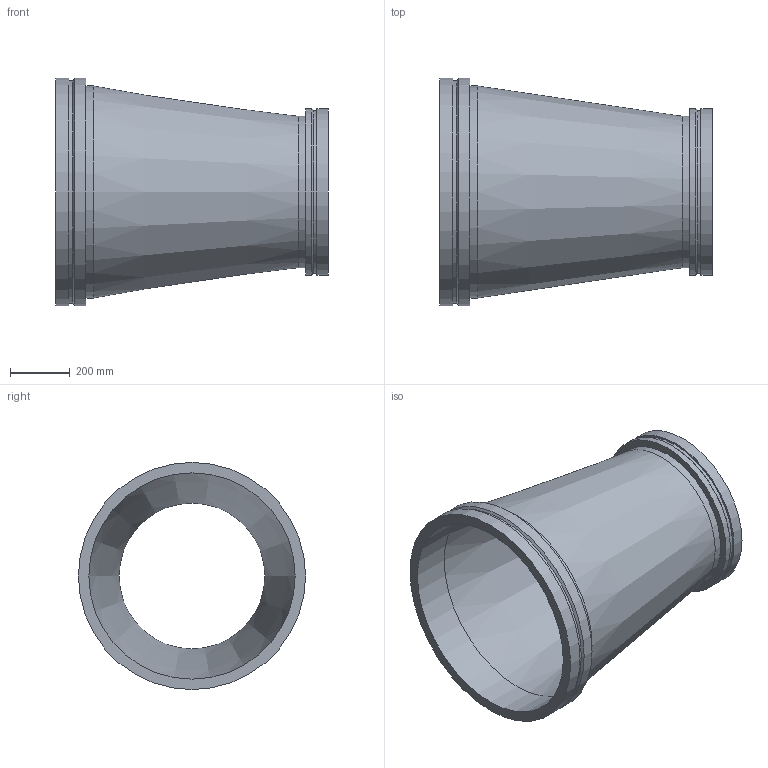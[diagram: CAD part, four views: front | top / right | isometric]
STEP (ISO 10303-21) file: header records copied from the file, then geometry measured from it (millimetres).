
FILE_DESCRIPTION(/* description */ ('VIC REDUCER CONCENTRIC No W50 VR','CAx-IF Rec.Pracs.---Representation and Presentation of Product Manufacturing Information (PMI)---4.0---2014-10-13'),/* implementation_level */ '2;1');
FILE_NAME(/* name */ 'C:\Users\kkamble\AppData\Roaming\Autodesk\ApplicationPlugins\Back Up\Victaulic_Vic-Ring_Reducer Concentric_No W50 VR (AGR)\Victaulic_Vic-Ring_Reducer Concentric_No W50 VR (AGR)_28.0x20.0 (700x500).stp',/* time_stamp */ '2020-09-10T11:46:11+05:00',/* author */ ('cps_temp'),/* organization */ ('Victaulic'),/* preprocessor_version */ 'ST-DEVELOPER v17.2',/* originating_system */ 'Autodesk Inventor 2019',/* authorisation */ '');
FILE_SCHEMA (('AP242_MANAGED_MODEL_BASED_3D_ENGINEERING_MIM_LF { 1 0 10303 442 1 1 4 }'));
Length unit declared in the file: inch
Products named in the file (1): W50 VR-28.0x20.0
Bounding box: 914.4 x 762 x 762 mm (x, y, z)
Volume: 25269389.4 mm3; surface area: 3799050.7 mm2
Topology: 1 solids, 1 shells, 20 faces, 54 edges, 40 vertices
Faces by surface type: cylinder 10, plane 6, cone 4
Full cylindrical faces by diameter (mm): 488.95 x1, 508 x1, 546.1 x1, 558.8 x2, 692.15 x1, 711.2 x1, 747.522 x1, 762 x2
Entity records: 830 total; most frequent: DIRECTION 162, CARTESIAN_POINT 132, ORIENTED_EDGE 108, AXIS2_PLACEMENT_3D 74, EDGE_CURVE 54, CIRCLE 40, VERTEX_POINT 40, EDGE_LOOP 26
